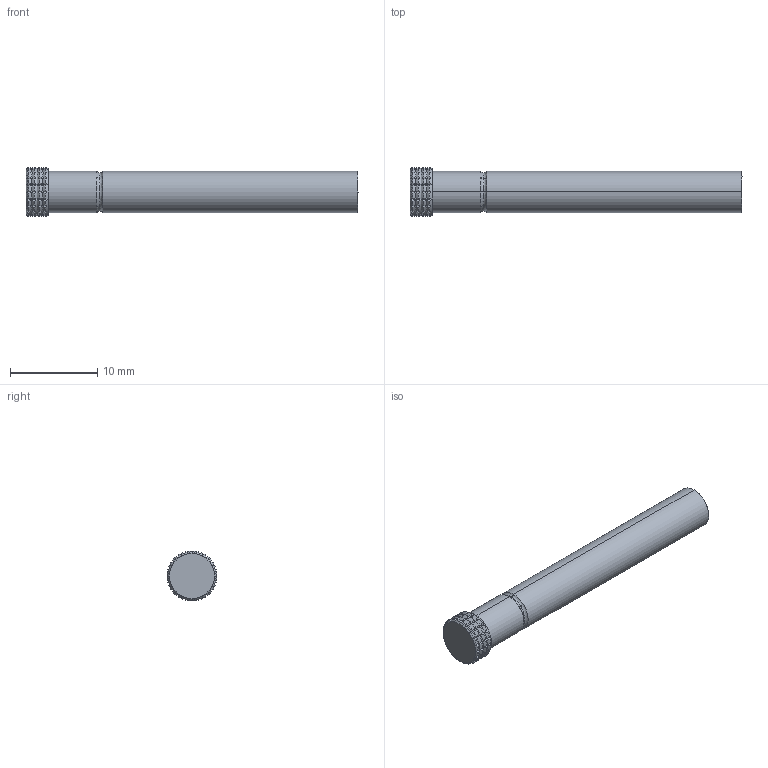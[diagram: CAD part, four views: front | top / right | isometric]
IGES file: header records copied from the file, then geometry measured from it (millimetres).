
Start section: SolidWorks IGES file using analytic representation for surfaces
Global section: file name: O:\PYLON\IGES FILES\P4301\P4301-1W FULL.IGS; native system: SolidWorks 2015; preprocessor: SolidWorks 2015; author: kgolden; date: 171020.123601; units: inch
Bounding box: 38.1 x 5.7 x 5.7 mm (x, y, z)
Surface area: 1114.7 mm2 (no closed solid volume)
Topology: 0 solids, 0 shells, 364 faces, 1853 edges, 1853 vertices
Faces by surface type: revolution 189, bspline 175
